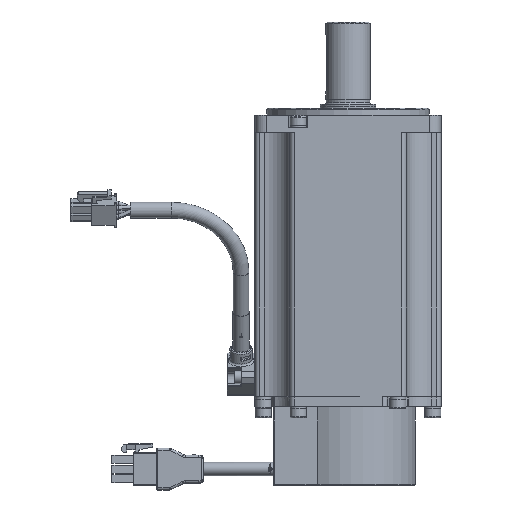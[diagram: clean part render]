
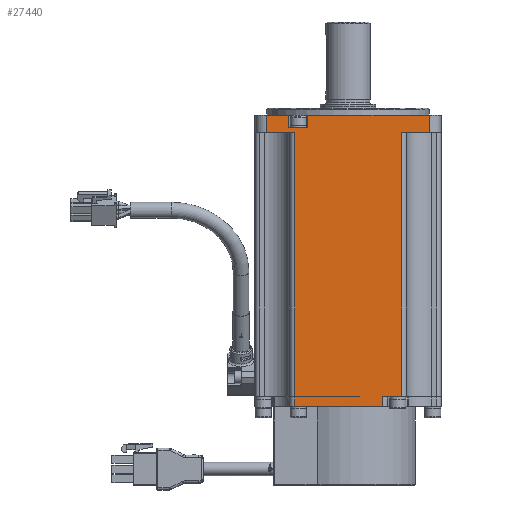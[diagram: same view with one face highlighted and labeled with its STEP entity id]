
A CAD part, left-side view. The second image highlights one B-rep face of the part: STEP entity #27440.
In plain terms, the highlighted planar face has unit normal (-1, 0, 0).
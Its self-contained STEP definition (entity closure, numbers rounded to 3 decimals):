
#1255=PLANE('',#29213);
#2251=FACE_OUTER_BOUND('',#3761,.T.);
#3761=EDGE_LOOP('',(#19536,#19537,#19538,#19539,#19540,#19541,#19542,#19543,
#19544,#19545,#19546,#19547,#19548,#19549,#19550,#19551,#19552,#19553));
#5678=LINE('',#41089,#8061);
#5681=LINE('',#41094,#8064);
#5715=LINE('',#41176,#8098);
#5716=LINE('',#41180,#8099);
#5717=LINE('',#41182,#8100);
#5718=LINE('',#41184,#8101);
#5719=LINE('',#41185,#8102);
#5720=LINE('',#41187,#8103);
#5721=LINE('',#41189,#8104);
#5722=LINE('',#41190,#8105);
#5723=LINE('',#41192,#8106);
#5724=LINE('',#41194,#8107);
#5725=LINE('',#41196,#8108);
#5726=LINE('',#41198,#8109);
#5727=LINE('',#41200,#8110);
#5728=LINE('',#41202,#8111);
#5729=LINE('',#41204,#8112);
#5730=LINE('',#41205,#8113);
#8061=VECTOR('',#33146,1000.);
#8064=VECTOR('',#33149,1000.);
#8098=VECTOR('',#33219,1000.);
#8099=VECTOR('',#33222,1000.);
#8100=VECTOR('',#33223,1000.);
#8101=VECTOR('',#33224,1000.);
#8102=VECTOR('',#33225,1000.);
#8103=VECTOR('',#33226,1000.);
#8104=VECTOR('',#33227,1000.);
#8105=VECTOR('',#33228,1000.);
#8106=VECTOR('',#33229,1000.);
#8107=VECTOR('',#33230,1000.);
#8108=VECTOR('',#33231,1000.);
#8109=VECTOR('',#33232,1000.);
#8110=VECTOR('',#33233,1000.);
#8111=VECTOR('',#33234,1000.);
#8112=VECTOR('',#33235,1000.);
#8113=VECTOR('',#33236,1000.);
#11525=VERTEX_POINT('',#41086);
#11526=VERTEX_POINT('',#41088);
#11527=VERTEX_POINT('',#41091);
#11528=VERTEX_POINT('',#41093);
#11558=VERTEX_POINT('',#41174);
#11559=VERTEX_POINT('',#41178);
#11560=VERTEX_POINT('',#41179);
#11561=VERTEX_POINT('',#41181);
#11562=VERTEX_POINT('',#41183);
#11563=VERTEX_POINT('',#41186);
#11564=VERTEX_POINT('',#41188);
#11565=VERTEX_POINT('',#41191);
#11566=VERTEX_POINT('',#41193);
#11567=VERTEX_POINT('',#41195);
#11568=VERTEX_POINT('',#41197);
#11569=VERTEX_POINT('',#41199);
#11570=VERTEX_POINT('',#41201);
#11571=VERTEX_POINT('',#41203);
#14473=EDGE_CURVE('',#11526,#11525,#5678,.T.);
#14476=EDGE_CURVE('',#11528,#11527,#5681,.T.);
#14518=EDGE_CURVE('',#11558,#11525,#5715,.T.);
#14519=EDGE_CURVE('',#11559,#11560,#5716,.T.);
#14520=EDGE_CURVE('',#11561,#11559,#5717,.T.);
#14521=EDGE_CURVE('',#11561,#11562,#5718,.T.);
#14522=EDGE_CURVE('',#11562,#11528,#5719,.T.);
#14523=EDGE_CURVE('',#11527,#11563,#5720,.T.);
#14524=EDGE_CURVE('',#11563,#11564,#5721,.T.);
#14525=EDGE_CURVE('',#11564,#11526,#5722,.T.);
#14526=EDGE_CURVE('',#11558,#11565,#5723,.T.);
#14527=EDGE_CURVE('',#11565,#11566,#5724,.T.);
#14528=EDGE_CURVE('',#11567,#11566,#5725,.T.);
#14529=EDGE_CURVE('',#11568,#11567,#5726,.T.);
#14530=EDGE_CURVE('',#11568,#11569,#5727,.T.);
#14531=EDGE_CURVE('',#11570,#11569,#5728,.T.);
#14532=EDGE_CURVE('',#11571,#11570,#5729,.T.);
#14533=EDGE_CURVE('',#11571,#11560,#5730,.T.);
#19536=ORIENTED_EDGE('',*,*,#14519,.F.);
#19537=ORIENTED_EDGE('',*,*,#14520,.F.);
#19538=ORIENTED_EDGE('',*,*,#14521,.T.);
#19539=ORIENTED_EDGE('',*,*,#14522,.T.);
#19540=ORIENTED_EDGE('',*,*,#14476,.T.);
#19541=ORIENTED_EDGE('',*,*,#14523,.T.);
#19542=ORIENTED_EDGE('',*,*,#14524,.T.);
#19543=ORIENTED_EDGE('',*,*,#14525,.T.);
#19544=ORIENTED_EDGE('',*,*,#14473,.T.);
#19545=ORIENTED_EDGE('',*,*,#14518,.F.);
#19546=ORIENTED_EDGE('',*,*,#14526,.T.);
#19547=ORIENTED_EDGE('',*,*,#14527,.T.);
#19548=ORIENTED_EDGE('',*,*,#14528,.F.);
#19549=ORIENTED_EDGE('',*,*,#14529,.F.);
#19550=ORIENTED_EDGE('',*,*,#14530,.T.);
#19551=ORIENTED_EDGE('',*,*,#14531,.F.);
#19552=ORIENTED_EDGE('',*,*,#14532,.F.);
#19553=ORIENTED_EDGE('',*,*,#14533,.T.);
#27440=ADVANCED_FACE('',(#2251),#1255,.T.);
#29213=AXIS2_PLACEMENT_3D('',#41177,#33220,#33221);
#33146=DIRECTION('',(0.,1.,0.));
#33149=DIRECTION('',(0.,1.,0.));
#33219=DIRECTION('',(0.,0.,1.));
#33220=DIRECTION('center_axis',(-1.,0.,0.));
#33221=DIRECTION('ref_axis',(0.,0.,1.));
#33222=DIRECTION('',(0.,1.,0.));
#33223=DIRECTION('',(0.,0.,-1.));
#33224=DIRECTION('',(0.,-1.,0.));
#33225=DIRECTION('',(0.,0.,1.));
#33226=DIRECTION('',(0.,0.,-1.));
#33227=DIRECTION('',(0.,1.,0.));
#33228=DIRECTION('',(0.,0.,1.));
#33229=DIRECTION('',(0.,-1.,0.));
#33230=DIRECTION('',(0.,0.,-1.));
#33231=DIRECTION('',(0.,1.,0.));
#33232=DIRECTION('',(0.,-1.,0.017));
#33233=DIRECTION('',(0.,1.,0.));
#33234=DIRECTION('',(0.,0.,1.));
#33235=DIRECTION('',(0.,1.,0.));
#33236=DIRECTION('',(0.,0.,1.));
#41086=CARTESIAN_POINT('',(-40.,35.,0.));
#41088=CARTESIAN_POINT('',(-40.,25.4,0.));
#41089=CARTESIAN_POINT('',(-40.,0.,0.));
#41091=CARTESIAN_POINT('',(-40.,17.4,0.));
#41093=CARTESIAN_POINT('',(-40.,-35.,0.));
#41094=CARTESIAN_POINT('',(-40.,0.,0.));
#41174=CARTESIAN_POINT('',(-40.,35.,-7.5));
#41176=CARTESIAN_POINT('',(-40.,35.,0.));
#41177=CARTESIAN_POINT('Origin',(-40.,-40.,0.));
#41178=CARTESIAN_POINT('',(-40.,-23.,-120.9));
#41179=CARTESIAN_POINT('',(-40.,-15.,-120.9));
#41180=CARTESIAN_POINT('',(-40.,23.,-120.9));
#41181=CARTESIAN_POINT('',(-40.,-23.,-7.5));
#41182=CARTESIAN_POINT('',(-40.,-23.,-104.7));
#41183=CARTESIAN_POINT('',(-40.,-35.,-7.5));
#41184=CARTESIAN_POINT('',(-40.,-40.,-7.5));
#41185=CARTESIAN_POINT('',(-40.,-35.,0.));
#41186=CARTESIAN_POINT('',(-40.,17.4,-5.5));
#41187=CARTESIAN_POINT('',(-40.,17.4,0.));
#41188=CARTESIAN_POINT('',(-40.,25.4,-5.5));
#41189=CARTESIAN_POINT('',(-40.,-40.,-5.5));
#41190=CARTESIAN_POINT('',(-40.,25.4,0.));
#41191=CARTESIAN_POINT('',(-40.,23.,-7.5));
#41192=CARTESIAN_POINT('',(-40.,-40.,-7.5));
#41193=CARTESIAN_POINT('',(-40.,23.,-120.9));
#41194=CARTESIAN_POINT('',(-40.,23.,-104.7));
#41195=CARTESIAN_POINT('',(-40.,-5.,-120.9));
#41196=CARTESIAN_POINT('',(-40.,23.,-120.9));
#41197=CARTESIAN_POINT('',(-40.,13.,-121.2));
#41198=CARTESIAN_POINT('',(-40.,13.,-121.2));
#41199=CARTESIAN_POINT('',(-40.,23.,-121.2));
#41200=CARTESIAN_POINT('',(-40.,-15.,-121.2));
#41201=CARTESIAN_POINT('',(-40.,23.,-125.2));
#41202=CARTESIAN_POINT('',(-40.,23.,-131.2));
#41203=CARTESIAN_POINT('',(-40.,-15.,-125.2));
#41204=CARTESIAN_POINT('',(-40.,-15.,-125.2));
#41205=CARTESIAN_POINT('',(-40.,-15.,-131.2));
